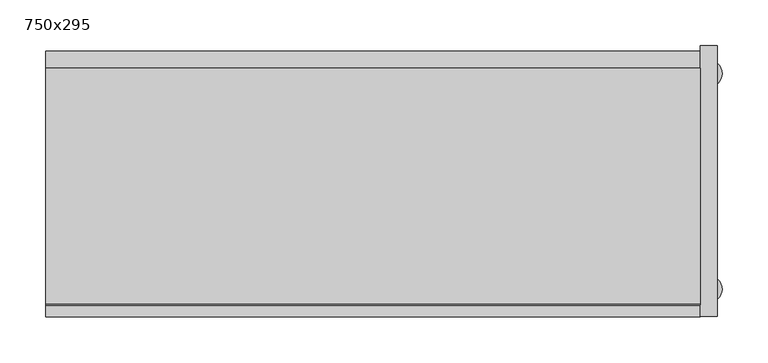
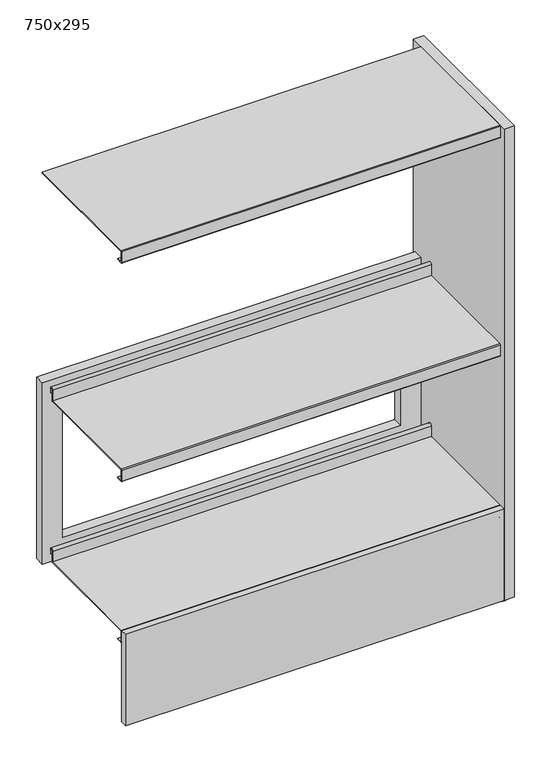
"""IFC4 building model written with IfcOpenShell, lengths in millimetres: furniture geometry, BK Library - Rondus EF - 950 : 750x295."""

from ifc_helpers import new_model, si_unit, point, frame, frame_2d, origin, origin_with_axes, place, context, project, spatial, polyline, circle_curve, trimmed, segment, composite_curve, outline, extrude, source, transform, mapped, element, save


def furniture_750x295_b42d7867(model_context):
    return source(origin(), model_context, "Body", "SweptSolid", [
        extrude(outline(polyline([(530.699951, -356.0), (170.699951, -356.0), (170.699951, 356.0), (530.699951, 356.0), (530.699951, -356.0)]), holes=[polyline([(490.6999512, -317.5), (490.6999512, 317.5), (210.6999512, 317.5), (210.6999512, -317.5), (490.6999512, -317.5)])]), frame((0.0, 123.0, 0.0), z_axis=(0.0, 1.0, 0.0), x_axis=(0.0, 0.0, 1.0)), (0.0, 0.0, 1.0), 19.0),
        extrude(outline(polyline([(356.0, -135.2476624), (356.0, -147.5), (-356.0, -147.5), (-356.0, -135.2476624), (356.0, -135.2476624)])), frame((0.0, 0.0, 13.6999998), z_axis=(0.0, 0.0, 1.0), x_axis=(1.0, 0.0, 0.0)), (0.0, 0.0, 1.0), 181.4999514),
        extrude(outline(composite_curve([segment(polyline([(123.0, 950.0), (123.0, 948.0), (-133.75, 948.0), (-133.75, 926.5), (-121.75, 926.5), (-121.75, 925.0), (-133.75, 925.0)]), True, "CONTINUOUS"), segment(trimmed(circle_curve(frame_2d((-133.75, 926.5)), 1.5), [point((-133.75, 925.0))], [point((-135.25, 926.5))], False, "CARTESIAN"), True, "CONTINUOUS"), segment(polyline([(-135.25, 926.5), (-135.25, 948.5)]), True, "CONTINUOUS"), segment(trimmed(circle_curve(frame_2d((-133.75, 948.5)), 1.5), [point((-135.25, 948.5))], [point((-133.75, 950.0))], False, "CARTESIAN"), True, "CONTINUOUS"), segment(polyline([(-133.75, 950.0), (123.0, 950.0)]), True, "CONTINUOUS")], self_intersect=False)), frame((-356.0, 0.0, 0.0), z_axis=(1.0, 0.0, 0.0), x_axis=(0.0, 1.0, 0.0)), (0.0, 0.0, 1.0), 712.0),
        extrude(outline(composite_curve([segment(polyline([(89.75, 515.1999512), (89.75, 536.7196336)]), True, "CONTINUOUS"), segment(trimmed(circle_curve(frame_2d((93.25, 536.7196336)), 3.5), [point((89.75, 536.7196336))], [point((96.75, 536.7196336))], False, "CARTESIAN"), True, "CONTINUOUS"), segment(polyline([(96.75, 536.7196336), (96.75, 528.1999512), (95.25, 528.1999512), (95.25, 536.7020126)]), True, "CONTINUOUS"), segment(trimmed(circle_curve(frame_2d((93.25, 536.7020126)), 2.0), [point((95.25, 536.7020126))], [point((91.25, 536.7020126))], True, "CARTESIAN"), True, "CONTINUOUS"), segment(polyline([(91.25, 536.7020126), (91.25, 515.1547733)]), True, "CONTINUOUS"), segment(trimmed(circle_curve(frame_2d((89.7951779, 515.1547733)), 1.4548221), [point((91.25, 515.1547733))], [point((89.7951779, 513.6999512))], False, "CARTESIAN"), True, "CONTINUOUS"), segment(polyline([(89.7951779, 513.6999512), (-133.75, 513.6999512), (-133.75, 492.1999512), (-121.75, 492.1999512), (-121.75, 490.6999512), (-133.75, 490.6999512)]), True, "CONTINUOUS"), segment(trimmed(circle_curve(frame_2d((-133.75, 492.1999512)), 1.5), [point((-133.75, 490.6999512))], [point((-135.25, 492.1999512))], False, "CARTESIAN"), True, "CONTINUOUS"), segment(polyline([(-135.25, 492.1999512), (-135.25, 513.6999512)]), True, "CONTINUOUS"), segment(trimmed(circle_curve(frame_2d((-133.75, 513.6999512)), 1.5), [point((-135.25, 513.6999512))], [point((-133.75, 515.1999512))], False, "CARTESIAN"), True, "CONTINUOUS"), segment(polyline([(-133.75, 515.1999512), (89.75, 515.1999512)]), True, "CONTINUOUS")], self_intersect=False)), frame((-356.0, 0.0, 0.0), z_axis=(1.0, 0.0, 0.0), x_axis=(0.0, 1.0, 0.0)), (0.0, 0.0, 1.0), 712.0),
        extrude(outline(composite_curve([segment(polyline([(89.75, 195.1999512), (89.75, 216.7196336)]), True, "CONTINUOUS"), segment(trimmed(circle_curve(frame_2d((93.25, 216.7196336)), 3.5), [point((89.75, 216.7196336))], [point((96.75, 216.7196336))], False, "CARTESIAN"), True, "CONTINUOUS"), segment(polyline([(96.75, 216.7196336), (96.75, 208.1999512), (95.25, 208.1999512), (95.25, 216.7020126)]), True, "CONTINUOUS"), segment(trimmed(circle_curve(frame_2d((93.25, 216.7020126)), 2.0), [point((95.25, 216.7020126))], [point((91.25, 216.7020126))], True, "CARTESIAN"), True, "CONTINUOUS"), segment(polyline([(91.25, 216.7020126), (91.25, 195.1547733)]), True, "CONTINUOUS"), segment(trimmed(circle_curve(frame_2d((89.7951779, 195.1547733)), 1.4548221), [point((91.25, 195.1547733))], [point((89.7951779, 193.6999512))], False, "CARTESIAN"), True, "CONTINUOUS"), segment(polyline([(89.7951779, 193.6999512), (-133.75, 193.6999512), (-133.75, 172.1999512), (-121.75, 172.1999512), (-121.75, 170.6999512), (-133.75, 170.6999512)]), True, "CONTINUOUS"), segment(trimmed(circle_curve(frame_2d((-133.75, 172.1999512)), 1.5), [point((-133.75, 170.6999512))], [point((-135.25, 172.1999512))], False, "CARTESIAN"), True, "CONTINUOUS"), segment(polyline([(-135.25, 172.1999512), (-135.25, 193.6999512)]), True, "CONTINUOUS"), segment(trimmed(circle_curve(frame_2d((-133.75, 193.6999512)), 1.5), [point((-135.25, 193.6999512))], [point((-133.75, 195.1999512))], False, "CARTESIAN"), True, "CONTINUOUS"), segment(polyline([(-133.75, 195.1999512), (89.75, 195.1999512)]), True, "CONTINUOUS")], self_intersect=False)), frame((-356.0, 0.0, 0.0), z_axis=(1.0, 0.0, 0.0), x_axis=(0.0, 1.0, 0.0)), (0.0, 0.0, 1.0), 712.0),
        extrude(outline(polyline([(356.0, 147.5), (375.0, 147.5), (375.0, -147.5), (356.0, -147.5), (356.0, 147.5)])), frame((0.0, 0.0, 13.6999998), z_axis=(0.0, 0.0, 1.0), x_axis=(1.0, 0.0, 0.0)), (0.0, 0.0, 1.0), 936.3000002),
        extrude(outline(composite_curve([segment(trimmed(circle_curve(frame_2d((365.5005427, 117.4952633)), 14.4994573), [point((380.0, 117.4952633))], [point((351.0010853, 117.4952633))], False, "CARTESIAN"), True, "CONTINUOUS"), segment(trimmed(circle_curve(frame_2d((365.5005427, 117.4952633)), 14.4994573), [point((351.0010853, 117.4952633))], [point((380.0, 117.4952633))], False, "CARTESIAN"), True, "CONTINUOUS")], self_intersect=False)), origin_with_axes(), (0.0, 0.0, 1.0), 13.6999998),
        extrude(outline(composite_curve([segment(trimmed(circle_curve(frame_2d((365.5005427, -117.4952633)), 14.4994573), [point((380.0, -117.4952633))], [point((351.0010853, -117.4952633))], False, "CARTESIAN"), True, "CONTINUOUS"), segment(trimmed(circle_curve(frame_2d((365.5005427, -117.4952633)), 14.4994573), [point((351.0010853, -117.4952633))], [point((380.0, -117.4952633))], False, "CARTESIAN"), True, "CONTINUOUS")], self_intersect=False)), origin_with_axes(), (0.0, 0.0, 1.0), 13.6999998),
    ])


if __name__ == "__main__":
    model = new_model("IFC4")
    model_context = context("Model", 3, world=origin())
    ifc_project = project(units=[si_unit("LENGTHUNIT", "METRE", prefix="MILLI")], contexts=[model_context])
    site = spatial("IfcSite", under=ifc_project)
    building = spatial("IfcBuilding", under=site)
    placement = place(None, origin())
    furniture_750x295_shape = furniture_750x295_b42d7867(model_context)
    element("IfcFurniture", 1, ObjectType="BK Library - Rondus EF - 950 : 750x295", at=placement, inside=building, context=model_context, shape_type="MappedRepresentation", body=[
        mapped(furniture_750x295_shape, transform((0.0, 0.0, 0.0), x_axis=(1.0, 0.0, 0.0), y_axis=(0.0, 1.0, 0.0), z_axis=(0.0, 0.0, 1.0))),
    ])
    save(model, "model.ifc")
